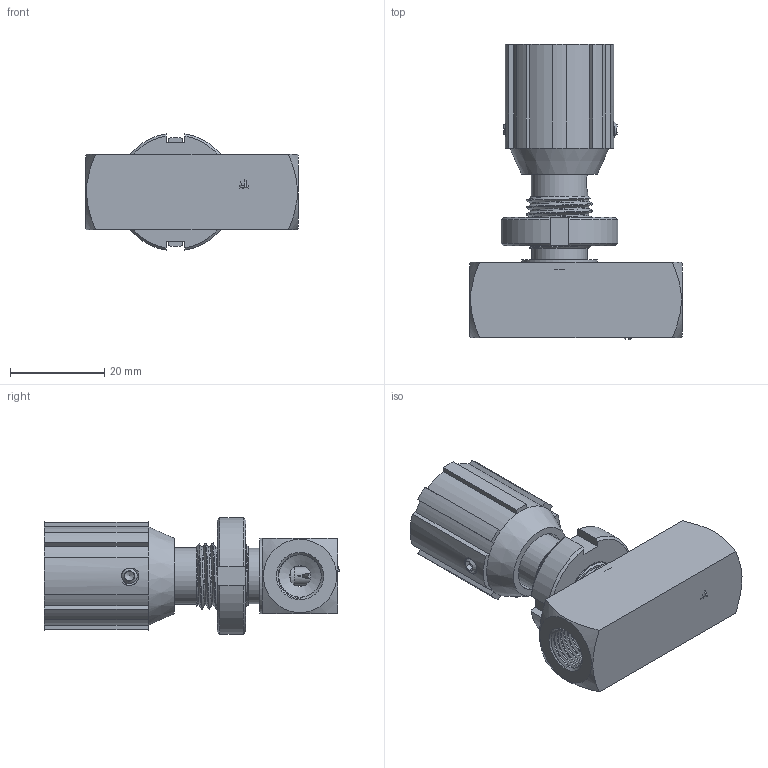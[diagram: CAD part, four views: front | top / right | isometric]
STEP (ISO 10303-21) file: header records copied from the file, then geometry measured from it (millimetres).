
FILE_DESCRIPTION(/* description */ (''),/* implementation_level */ '2;1');
FILE_NAME(/* name */ 'DRV6-1-1XJ.stp',/* time_stamp */ '2024-01-25T14:39:07+08:00',/* author */ (''),/* organization */ (''),/* preprocessor_version */ 'ST-DEVELOPER v16.7',/* originating_system */ 'SIEMENS PLM Software NX 12.0',/* authorisation */ '');
FILE_SCHEMA (('AUTOMOTIVE_DESIGN { 1 0 10303 214 3 1 1 1 }'));
Products named in the file (1): DRVP6
Bounding box: 45 x 62.53 x 24.68 mm (x, y, z)
Volume: 22064.5 mm3; surface area: 16311.2 mm2
Topology: 13 solids, 14 shells, 383 faces, 1006 edges, 667 vertices
Faces by surface type: plane 159, cylinder 103, bspline 65, cone 54, torus 2
Full cylindrical faces by diameter (mm): 3 x2, 3.4 x2, 4 x3, 4.5 x1, 5 x3, 6 x6, 6.4 x1, 6.9 x2, 7 x2, 8 x1, 9 x23, 10 x1, 11.7 x1, 12 x4, 13 x1, 13.4 x1, 19 x1
Entity records: 42474 total; most frequent: CARTESIAN_POINT 34820, ORIENTED_EDGE 1674, DIRECTION 1291, EDGE_CURVE 837, VERTEX_POINT 598, AXIS2_PLACEMENT_3D 513, EDGE_LOOP 462, ADVANCED_FACE 358
